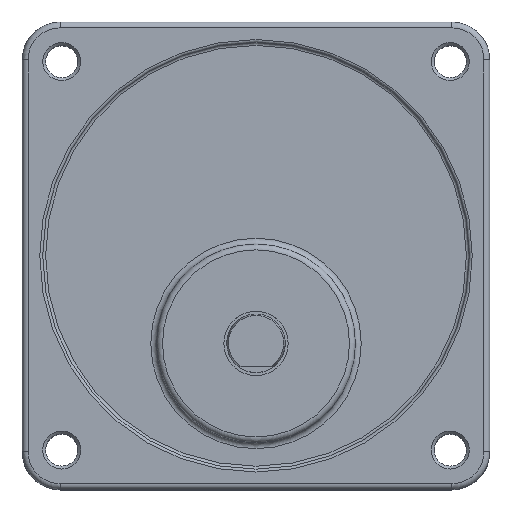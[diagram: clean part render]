
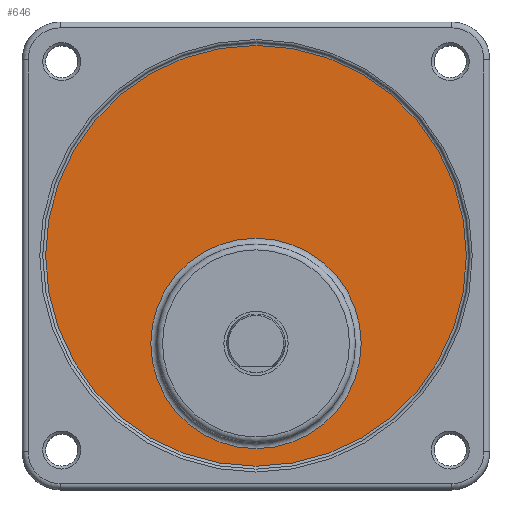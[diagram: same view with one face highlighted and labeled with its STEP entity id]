
A CAD part, top view. The second image highlights one B-rep face of the part: STEP entity #646.
In plain terms, the highlighted planar face has unit normal (0, 0, 1).
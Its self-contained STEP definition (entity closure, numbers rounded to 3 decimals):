
#595=CARTESIAN_POINT('',(58.,25.0,41.5));
#596=VERTEX_POINT('',#595);
#597=CARTESIAN_POINT('',(40.,25.0,41.5));
#598=DIRECTION('',(0.0,0.0,1.0));
#599=DIRECTION('',(-1.0,0.0,0.0));
#600=AXIS2_PLACEMENT_3D('',#597,#598,#599);
#601=CIRCLE('',#600,18.);
#602=EDGE_CURVE('',#596,#596,#601,.T.);
#627=CARTESIAN_POINT('',(40.,40.0,41.5));
#628=DIRECTION('',(0.0,0.0,-1.0));
#629=DIRECTION('',(-1.0,0.0,0.0));
#630=AXIS2_PLACEMENT_3D('',#627,#628,#629);
#631=PLANE('',#630);
#632=CARTESIAN_POINT('',(76.,40.,41.5));
#633=VERTEX_POINT('',#632);
#634=CARTESIAN_POINT('',(40.,40.0,41.5));
#635=DIRECTION('',(0.0,0.0,-1.0));
#636=DIRECTION('',(-1.0,0.0,0.0));
#637=AXIS2_PLACEMENT_3D('',#634,#635,#636);
#638=CIRCLE('',#637,36.);
#639=EDGE_CURVE('',#633,#633,#638,.T.);
#640=ORIENTED_EDGE('',*,*,#639,.F.);
#641=EDGE_LOOP('',(#640));
#642=FACE_OUTER_BOUND('',#641,.T.);
#643=ORIENTED_EDGE('',*,*,#602,.F.);
#644=EDGE_LOOP('',(#643));
#645=FACE_BOUND('',#644,.T.);
#646=ADVANCED_FACE('',(#642,#645),#631,.F.);
